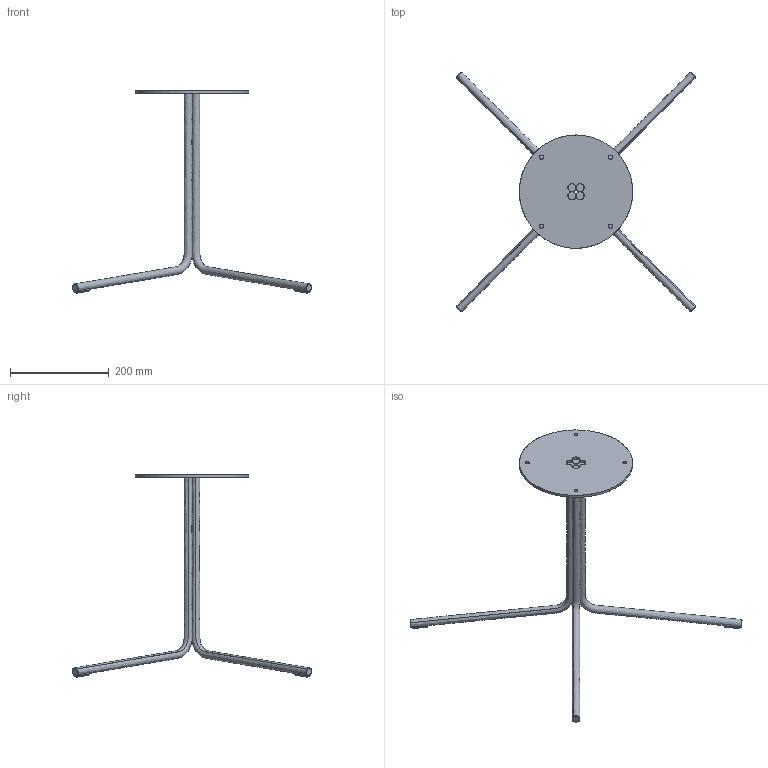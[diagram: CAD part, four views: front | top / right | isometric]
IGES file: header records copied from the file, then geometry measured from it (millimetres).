
Global section: file name: R:\DISEGNI E FOTO MODELLI ROSSETTO\BASI\R3\R3  PER RENDERING.igs; native system: Rhinoceros ( Mar  9 2011 ); preprocessor: Trout Lake IGES 012 Mar  9 2011; date: 120523.081348; units: millimetre
Bounding box: 485.56 x 485.56 x 410.08 mm (x, y, z)
Surface area: 227269.1 mm2 (no closed solid volume)
Topology: 0 solids, 0 shells, 256 faces, 5898 edges, 5804 vertices
Faces by surface type: bspline 256
